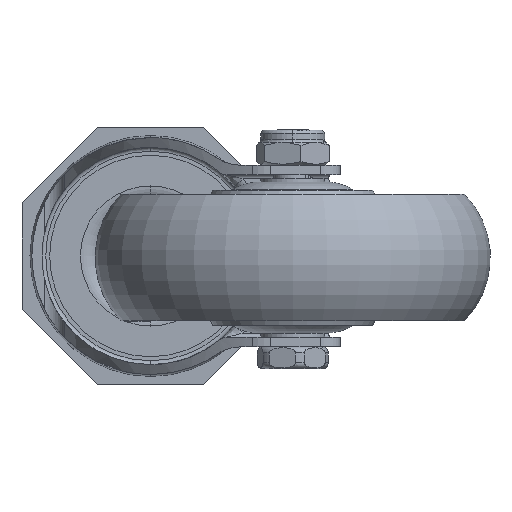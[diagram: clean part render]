
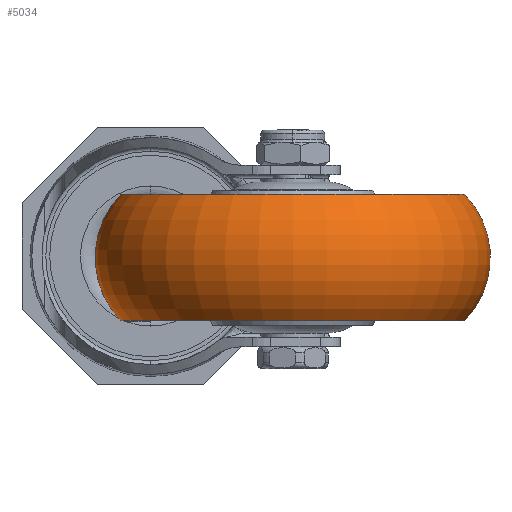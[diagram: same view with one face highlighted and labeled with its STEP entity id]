
A CAD part, front view. The second image highlights one B-rep face of the part: STEP entity #5034.
In plain terms, the highlighted toroidal (fillet/blend) face has major radius 27.058 mm and minor radius 22.942 mm.
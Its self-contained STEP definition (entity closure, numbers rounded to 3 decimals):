
#4788 = VERTEX_POINT ( 'NONE', #13686 ) ;
#5012 = VERTEX_POINT ( 'NONE', #15131 ) ;
#5013 = ORIENTED_EDGE ( 'NONE', *, *, #5014, .T. ) ;
#5014 = EDGE_CURVE ( 'NONE', #5012, #5016, #15042, .T. ) ;
#5016 = VERTEX_POINT ( 'NONE', #15033 ) ;
#5018 = ORIENTED_EDGE ( 'NONE', *, *, #5019, .F. ) ;
#5019 = EDGE_CURVE ( 'NONE', #5020, #5016, #14911, .T. ) ;
#5020 = VERTEX_POINT ( 'NONE', #14635 ) ;
#5021 = ORIENTED_EDGE ( 'NONE', *, *, #5022, .F. ) ;
#5022 = EDGE_CURVE ( 'NONE', #4788, #5020, #14628, .T. ) ;
#5034 = ADVANCED_FACE ( 'NONE', ( #14947 ), #14937, .T. ) ;
#5035 = EDGE_LOOP ( 'NONE', ( #5036, #5013, #5018, #5021 ) ) ;
#5036 = ORIENTED_EDGE ( 'NONE', *, *, #5037, .T. ) ;
#5037 = EDGE_CURVE ( 'NONE', #4788, #5012, #14939, .T. ) ;
#13686 = CARTESIAN_POINT ( 'NONE',  ( 43.5, 16., 0. ) ) ;
#14619 = DIRECTION ( 'NONE',  ( -1., 0., 0. ) ) ;
#14622 = DIRECTION ( 'NONE',  ( 0., 0., -1. ) ) ;
#14625 = CARTESIAN_POINT ( 'NONE',  ( 27.058, 0., 0. ) ) ;
#14626 = AXIS2_PLACEMENT_3D ( 'NONE', #14625, #14622, #14619 ) ;
#14628 = CIRCLE ( 'NONE', #14626, 22.942 ) ;
#14635 = CARTESIAN_POINT ( 'NONE',  ( 43.5, -16., 0. ) ) ;
#14904 = DIRECTION ( 'NONE',  ( 1., 0., 0. ) ) ;
#14906 = DIRECTION ( 'NONE',  ( 0., -1., 0. ) ) ;
#14907 = CARTESIAN_POINT ( 'NONE',  ( 0., -16., 0. ) ) ;
#14908 = AXIS2_PLACEMENT_3D ( 'NONE', #14907, #14906, #14904 ) ;
#14911 = CIRCLE ( 'NONE', #14908, 43.5 ) ;
#14917 = DIRECTION ( 'NONE',  ( 0., -1., 0. ) ) ;
#14919 = CARTESIAN_POINT ( 'NONE',  ( 0., 16., 0. ) ) ;
#14920 = AXIS2_PLACEMENT_3D ( 'NONE', #14919, #14917, #15118 ) ;
#14927 = DIRECTION ( 'NONE',  ( 1., 0., 0. ) ) ;
#14930 = DIRECTION ( 'NONE',  ( 0., -1., 0. ) ) ;
#14932 = CARTESIAN_POINT ( 'NONE',  ( 0., 0., 0. ) ) ;
#14934 = AXIS2_PLACEMENT_3D ( 'NONE', #14932, #14930, #14927 ) ;
#14937 = TOROIDAL_SURFACE ( 'NONE', #14934, 27.058, 22.942 ) ;
#14939 = CIRCLE ( 'NONE', #14920, 43.5 ) ;
#14947 = FACE_OUTER_BOUND ( 'NONE', #5035, .T. ) ;
#15033 = CARTESIAN_POINT ( 'NONE',  ( -43.5, -16., 0. ) ) ;
#15035 = DIRECTION ( 'NONE',  ( 1., 0., 0. ) ) ;
#15037 = DIRECTION ( 'NONE',  ( 0., 0., 1. ) ) ;
#15039 = CARTESIAN_POINT ( 'NONE',  ( -27.058, 0., 0. ) ) ;
#15040 = AXIS2_PLACEMENT_3D ( 'NONE', #15039, #15037, #15035 ) ;
#15042 = CIRCLE ( 'NONE', #15040, 22.942 ) ;
#15118 = DIRECTION ( 'NONE',  ( 1., 0., 0. ) ) ;
#15131 = CARTESIAN_POINT ( 'NONE',  ( -43.5, 16., 0. ) ) ;
